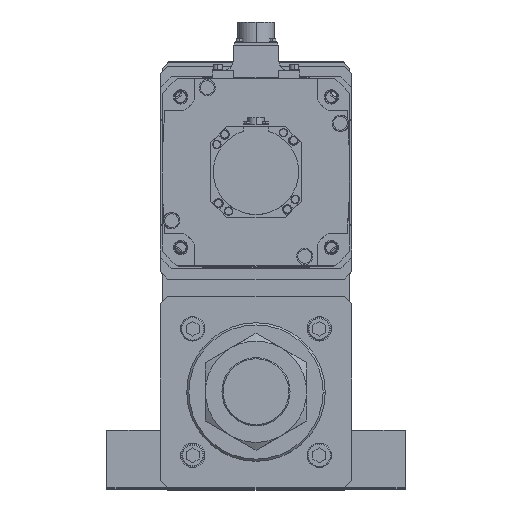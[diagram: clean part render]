
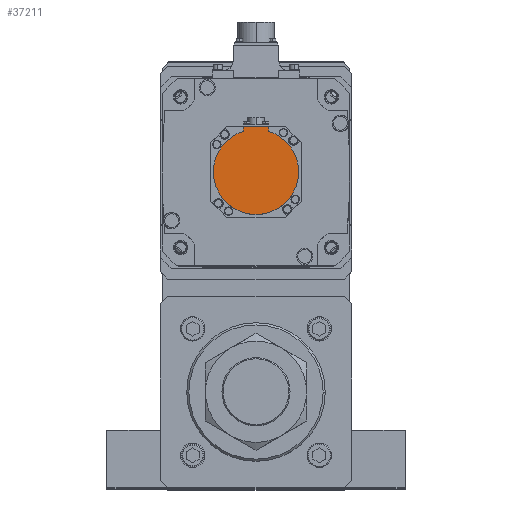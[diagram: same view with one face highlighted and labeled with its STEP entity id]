
A CAD part, top view. The second image highlights one B-rep face of the part: STEP entity #37211.
In plain terms, the highlighted planar face has unit normal (0, 0, 1) as drawn and (0, 0, -1) by its records, which use the part's own axes.
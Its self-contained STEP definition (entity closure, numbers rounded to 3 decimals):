
#301 = CARTESIAN_POINT ( 'NONE',  ( 0., 0., -178.5 ) ) ;
#498 = AXIS2_PLACEMENT_3D ( 'NONE', #301, #16123, #16305 ) ;
#1447 = VERTEX_POINT ( 'NONE', #22939 ) ;
#1808 = CARTESIAN_POINT ( 'NONE',  ( -12., -42.5, -178.5 ) ) ;
#4045 = VERTEX_POINT ( 'NONE', #31055 ) ;
#4338 = AXIS2_PLACEMENT_3D ( 'NONE', #19194, #19374, #36374 ) ;
#6702 = CARTESIAN_POINT ( 'NONE',  ( 0., -1.249, -178.5 ) ) ;
#7366 = AXIS2_PLACEMENT_3D ( 'NONE', #15098, #19176, #47898 ) ;
#12774 = VERTEX_POINT ( 'NONE', #52358 ) ;
#13196 = ORIENTED_EDGE ( 'NONE', *, *, #50207, .T. ) ;
#14636 = CARTESIAN_POINT ( 'NONE',  ( 12., -1.249, -178.5 ) ) ;
#14655 = ORIENTED_EDGE ( 'NONE', *, *, #16451, .F. ) ;
#14807 = DIRECTION ( 'NONE',  ( 0., 1., 0. ) ) ;
#15098 = CARTESIAN_POINT ( 'NONE',  ( 0., 0., -178.5 ) ) ;
#16123 = DIRECTION ( 'NONE',  ( 0., 0., 1. ) ) ;
#16305 = DIRECTION ( 'NONE',  ( 1., 0., 0. ) ) ;
#16451 = EDGE_CURVE ( 'NONE', #47605, #12774, #46042, .T. ) ;
#18283 = ORIENTED_EDGE ( 'NONE', *, *, #41252, .F. ) ;
#19176 = DIRECTION ( 'NONE',  ( 0., 0., 1. ) ) ;
#19194 = CARTESIAN_POINT ( 'NONE',  ( 0., 0., -178.5 ) ) ;
#19374 = DIRECTION ( 'NONE',  ( 0., 0., 1. ) ) ;
#19836 = VECTOR ( 'NONE', #28568, 1000. ) ;
#20773 = DIRECTION ( 'NONE',  ( 0., 1., 0. ) ) ;
#21063 = ORIENTED_EDGE ( 'NONE', *, *, #29192, .T. ) ;
#22939 = CARTESIAN_POINT ( 'NONE',  ( -12., -38.158, -178.5 ) ) ;
#24087 = AXIS2_PLACEMENT_3D ( 'NONE', #6702, #26969, #43098 ) ;
#26969 = DIRECTION ( 'NONE',  ( 0., 0., 1. ) ) ;
#27093 = VECTOR ( 'NONE', #20773, 1000. ) ;
#27816 = CIRCLE ( 'NONE', #498, 40. ) ;
#28017 = CARTESIAN_POINT ( 'NONE',  ( 0., -42.5, -178.5 ) ) ;
#28568 = DIRECTION ( 'NONE',  ( -1., 0., 0. ) ) ;
#28978 = VECTOR ( 'NONE', #14807, 1000. ) ;
#29192 = EDGE_CURVE ( 'NONE', #42225, #1447, #48893, .T. ) ;
#31055 = CARTESIAN_POINT ( 'NONE',  ( 12., -42.5, -178.5 ) ) ;
#32409 = CARTESIAN_POINT ( 'NONE',  ( -12., -40.329, -178.5 ) ) ;
#33980 = VERTEX_POINT ( 'NONE', #35994 ) ;
#35545 = PLANE ( 'NONE',  #24087 ) ;
#35994 = CARTESIAN_POINT ( 'NONE',  ( -40., 0., -178.5 ) ) ;
#36374 = DIRECTION ( 'NONE',  ( 1., 0., 0. ) ) ;
#37211 = ADVANCED_FACE ( 'NONE', ( #38645 ), #35545, .F. ) ;
#37784 = EDGE_CURVE ( 'NONE', #4045, #47605, #52071, .T. ) ;
#38281 = ORIENTED_EDGE ( 'NONE', *, *, #37784, .F. ) ;
#38645 = FACE_OUTER_BOUND ( 'NONE', #41270, .T. ) ;
#39192 = EDGE_CURVE ( 'NONE', #12774, #33980, #40334, .T. ) ;
#40334 = CIRCLE ( 'NONE', #7366, 40. ) ;
#41252 = EDGE_CURVE ( 'NONE', #33980, #1447, #27816, .T. ) ;
#41270 = EDGE_LOOP ( 'NONE', ( #21063, #18283, #41796, #14655, #38281, #13196 ) ) ;
#41666 = LINE ( 'NONE', #28017, #19836 ) ;
#41796 = ORIENTED_EDGE ( 'NONE', *, *, #39192, .F. ) ;
#42225 = VERTEX_POINT ( 'NONE', #1808 ) ;
#43098 = DIRECTION ( 'NONE',  ( 1., 0., 0. ) ) ;
#46042 = CIRCLE ( 'NONE', #4338, 40. ) ;
#47605 = VERTEX_POINT ( 'NONE', #48471 ) ;
#47898 = DIRECTION ( 'NONE',  ( 1., 0., 0. ) ) ;
#48471 = CARTESIAN_POINT ( 'NONE',  ( 12., -38.158, -178.5 ) ) ;
#48893 = LINE ( 'NONE', #32409, #27093 ) ;
#50207 = EDGE_CURVE ( 'NONE', #4045, #42225, #41666, .T. ) ;
#52071 = LINE ( 'NONE', #14636, #28978 ) ;
#52358 = CARTESIAN_POINT ( 'NONE',  ( 40., 0., -178.5 ) ) ;
